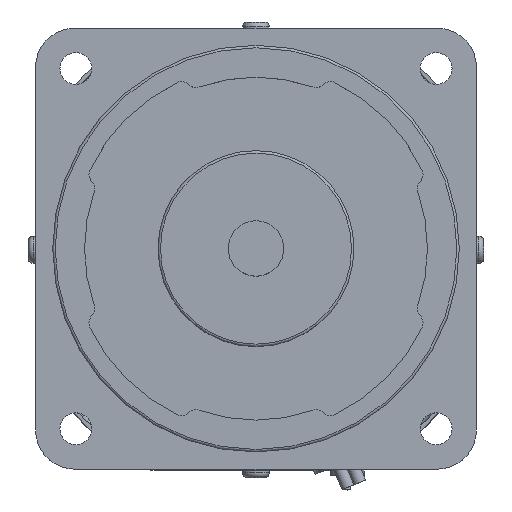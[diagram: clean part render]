
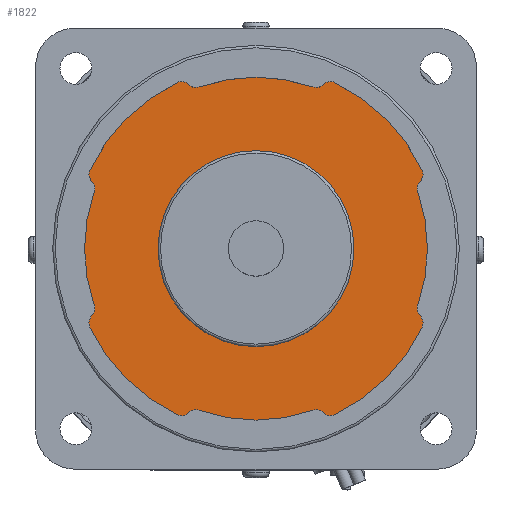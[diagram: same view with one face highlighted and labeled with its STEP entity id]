
A CAD part, top view. The second image highlights one B-rep face of the part: STEP entity #1822.
In plain terms, the highlighted planar face has unit normal (0, 0, 1).
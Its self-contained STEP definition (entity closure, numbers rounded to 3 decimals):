
#1581=CARTESIAN_POINT('',(20.0,0.,191.0));
#1582=VERTEX_POINT('',#1581);
#1583=CARTESIAN_POINT('',(0.,0.,191.0));
#1584=DIRECTION('',(0.0,0.0,-1.0));
#1585=DIRECTION('',(-1.0,0.0,0.0));
#1586=AXIS2_PLACEMENT_3D('',#1583,#1584,#1585);
#1587=CIRCLE('',#1586,20.0);
#1588=EDGE_CURVE('',#1582,#1582,#1587,.T.);
#1596=CARTESIAN_POINT('',(0.,0.,191.0));
#1597=DIRECTION('',(0.0,0.0,1.0));
#1598=DIRECTION('',(1.0,0.0,0.0));
#1599=AXIS2_PLACEMENT_3D('',#1596,#1597,#1598);
#1600=PLANE('',#1599);
#1601=CARTESIAN_POINT('',(-16.006,-33.913,191.0));
#1602=VERTEX_POINT('',#1601);
#1603=CARTESIAN_POINT('',(-13.722,-33.501,191.0));
#1604=VERTEX_POINT('',#1603);
#1605=CARTESIAN_POINT('',(-15.152,-32.104,191.0));
#1606=DIRECTION('',(0.0,0.0,1.0));
#1607=DIRECTION('',(0.427,0.904,0.0));
#1608=AXIS2_PLACEMENT_3D('',#1605,#1606,#1607);
#1609=CIRCLE('',#1608,2.);
#1610=EDGE_CURVE('',#1602,#1604,#1609,.T.);
#1611=ORIENTED_EDGE('',*,*,#1610,.T.);
#1612=CARTESIAN_POINT('',(-11.626,-33.013,191.0));
#1613=VERTEX_POINT('',#1612);
#1614=CARTESIAN_POINT('',(-12.291,-34.899,191.0));
#1615=DIRECTION('',(0.0,0.0,-1.0));
#1616=DIRECTION('',(-0.408,0.913,0.0));
#1617=AXIS2_PLACEMENT_3D('',#1614,#1615,#1616);
#1618=CIRCLE('',#1617,2.0);
#1619=EDGE_CURVE('',#1613,#1604,#1618,.F.);
#1620=ORIENTED_EDGE('',*,*,#1619,.F.);
#1621=CARTESIAN_POINT('',(11.626,-33.013,191.0));
#1622=VERTEX_POINT('',#1621);
#1623=CARTESIAN_POINT('',(0.,0.,191.));
#1624=DIRECTION('',(0.,0.,1.0));
#1625=DIRECTION('',(-0.383,-0.924,0.));
#1626=AXIS2_PLACEMENT_3D('',#1623,#1624,#1625);
#1627=CIRCLE('',#1626,35.0);
#1628=EDGE_CURVE('',#1613,#1622,#1627,.T.);
#1629=ORIENTED_EDGE('',*,*,#1628,.T.);
#1630=CARTESIAN_POINT('',(13.722,-33.501,191.0));
#1631=VERTEX_POINT('',#1630);
#1632=CARTESIAN_POINT('',(12.291,-34.899,191.0));
#1633=DIRECTION('',(0.0,0.0,-1.0));
#1634=DIRECTION('',(0.408,0.913,0.0));
#1635=AXIS2_PLACEMENT_3D('',#1632,#1633,#1634);
#1636=CIRCLE('',#1635,2.0);
#1637=EDGE_CURVE('',#1631,#1622,#1636,.F.);
#1638=ORIENTED_EDGE('',*,*,#1637,.F.);
#1639=CARTESIAN_POINT('',(16.006,-33.913,191.0));
#1640=VERTEX_POINT('',#1639);
#1641=CARTESIAN_POINT('',(15.152,-32.104,191.0));
#1642=DIRECTION('',(0.0,0.0,1.0));
#1643=DIRECTION('',(0.715,0.699,0.0));
#1644=AXIS2_PLACEMENT_3D('',#1641,#1642,#1643);
#1645=CIRCLE('',#1644,2.);
#1646=EDGE_CURVE('',#1631,#1640,#1645,.T.);
#1647=ORIENTED_EDGE('',*,*,#1646,.T.);
#1648=CARTESIAN_POINT('',(33.913,-16.006,191.0));
#1649=VERTEX_POINT('',#1648);
#1650=CARTESIAN_POINT('',(0.,0.,191.));
#1651=DIRECTION('',(0.,0.,1.0));
#1652=DIRECTION('',(0.383,-0.924,0.));
#1653=AXIS2_PLACEMENT_3D('',#1650,#1651,#1652);
#1654=CIRCLE('',#1653,37.5);
#1655=EDGE_CURVE('',#1640,#1649,#1654,.T.);
#1656=ORIENTED_EDGE('',*,*,#1655,.T.);
#1657=CARTESIAN_POINT('',(33.501,-13.722,191.0));
#1658=VERTEX_POINT('',#1657);
#1659=CARTESIAN_POINT('',(32.104,-15.152,191.0));
#1660=DIRECTION('',(0.0,0.0,1.0));
#1661=DIRECTION('',(-0.904,0.427,0.0));
#1662=AXIS2_PLACEMENT_3D('',#1659,#1660,#1661);
#1663=CIRCLE('',#1662,2.);
#1664=EDGE_CURVE('',#1649,#1658,#1663,.T.);
#1665=ORIENTED_EDGE('',*,*,#1664,.T.);
#1666=CARTESIAN_POINT('',(33.013,-11.626,191.0));
#1667=VERTEX_POINT('',#1666);
#1668=CARTESIAN_POINT('',(34.899,-12.291,191.0));
#1669=DIRECTION('',(0.0,0.0,-1.0));
#1670=DIRECTION('',(-0.913,-0.408,0.0));
#1671=AXIS2_PLACEMENT_3D('',#1668,#1669,#1670);
#1672=CIRCLE('',#1671,2.0);
#1673=EDGE_CURVE('',#1667,#1658,#1672,.F.);
#1674=ORIENTED_EDGE('',*,*,#1673,.F.);
#1675=CARTESIAN_POINT('',(33.013,11.626,191.0));
#1676=VERTEX_POINT('',#1675);
#1677=CARTESIAN_POINT('',(0.,0.,191.));
#1678=DIRECTION('',(0.,0.,1.0));
#1679=DIRECTION('',(0.924,-0.383,0.));
#1680=AXIS2_PLACEMENT_3D('',#1677,#1678,#1679);
#1681=CIRCLE('',#1680,35.);
#1682=EDGE_CURVE('',#1667,#1676,#1681,.T.);
#1683=ORIENTED_EDGE('',*,*,#1682,.T.);
#1684=CARTESIAN_POINT('',(33.501,13.722,191.0));
#1685=VERTEX_POINT('',#1684);
#1686=CARTESIAN_POINT('',(34.899,12.291,191.0));
#1687=DIRECTION('',(0.0,0.0,-1.0));
#1688=DIRECTION('',(-0.913,0.408,0.0));
#1689=AXIS2_PLACEMENT_3D('',#1686,#1687,#1688);
#1690=CIRCLE('',#1689,2.0);
#1691=EDGE_CURVE('',#1685,#1676,#1690,.F.);
#1692=ORIENTED_EDGE('',*,*,#1691,.F.);
#1693=CARTESIAN_POINT('',(33.913,16.006,191.0));
#1694=VERTEX_POINT('',#1693);
#1695=CARTESIAN_POINT('',(32.104,15.152,191.0));
#1696=DIRECTION('',(0.0,0.0,1.0));
#1697=DIRECTION('',(-0.699,0.715,0.0));
#1698=AXIS2_PLACEMENT_3D('',#1695,#1696,#1697);
#1699=CIRCLE('',#1698,2.);
#1700=EDGE_CURVE('',#1685,#1694,#1699,.T.);
#1701=ORIENTED_EDGE('',*,*,#1700,.T.);
#1702=CARTESIAN_POINT('',(16.006,33.913,191.0));
#1703=VERTEX_POINT('',#1702);
#1704=CARTESIAN_POINT('',(0.,0.,191.));
#1705=DIRECTION('',(0.,0.,1.0));
#1706=DIRECTION('',(0.924,0.383,0.));
#1707=AXIS2_PLACEMENT_3D('',#1704,#1705,#1706);
#1708=CIRCLE('',#1707,37.5);
#1709=EDGE_CURVE('',#1694,#1703,#1708,.T.);
#1710=ORIENTED_EDGE('',*,*,#1709,.T.);
#1711=CARTESIAN_POINT('',(13.722,33.501,191.0));
#1712=VERTEX_POINT('',#1711);
#1713=CARTESIAN_POINT('',(15.152,32.104,191.0));
#1714=DIRECTION('',(0.0,0.0,1.0));
#1715=DIRECTION('',(-0.427,-0.904,0.0));
#1716=AXIS2_PLACEMENT_3D('',#1713,#1714,#1715);
#1717=CIRCLE('',#1716,2.);
#1718=EDGE_CURVE('',#1703,#1712,#1717,.T.);
#1719=ORIENTED_EDGE('',*,*,#1718,.T.);
#1720=CARTESIAN_POINT('',(11.626,33.013,191.0));
#1721=VERTEX_POINT('',#1720);
#1722=CARTESIAN_POINT('',(12.291,34.899,191.0));
#1723=DIRECTION('',(0.0,0.0,-1.0));
#1724=DIRECTION('',(0.408,-0.913,0.0));
#1725=AXIS2_PLACEMENT_3D('',#1722,#1723,#1724);
#1726=CIRCLE('',#1725,2.0);
#1727=EDGE_CURVE('',#1721,#1712,#1726,.F.);
#1728=ORIENTED_EDGE('',*,*,#1727,.F.);
#1729=CARTESIAN_POINT('',(-11.626,33.013,191.0));
#1730=VERTEX_POINT('',#1729);
#1731=CARTESIAN_POINT('',(0.,0.,191.));
#1732=DIRECTION('',(0.,0.,1.0));
#1733=DIRECTION('',(0.383,0.924,0.));
#1734=AXIS2_PLACEMENT_3D('',#1731,#1732,#1733);
#1735=CIRCLE('',#1734,35.0);
#1736=EDGE_CURVE('',#1721,#1730,#1735,.T.);
#1737=ORIENTED_EDGE('',*,*,#1736,.T.);
#1738=CARTESIAN_POINT('',(-13.722,33.501,191.0));
#1739=VERTEX_POINT('',#1738);
#1740=CARTESIAN_POINT('',(-12.291,34.899,191.0));
#1741=DIRECTION('',(0.0,0.0,-1.0));
#1742=DIRECTION('',(-0.408,-0.913,0.0));
#1743=AXIS2_PLACEMENT_3D('',#1740,#1741,#1742);
#1744=CIRCLE('',#1743,2.0);
#1745=EDGE_CURVE('',#1739,#1730,#1744,.F.);
#1746=ORIENTED_EDGE('',*,*,#1745,.F.);
#1747=CARTESIAN_POINT('',(-16.006,33.913,191.0));
#1748=VERTEX_POINT('',#1747);
#1749=CARTESIAN_POINT('',(-15.152,32.104,191.0));
#1750=DIRECTION('',(0.0,0.0,1.0));
#1751=DIRECTION('',(-0.715,-0.699,0.0));
#1752=AXIS2_PLACEMENT_3D('',#1749,#1750,#1751);
#1753=CIRCLE('',#1752,2.);
#1754=EDGE_CURVE('',#1739,#1748,#1753,.T.);
#1755=ORIENTED_EDGE('',*,*,#1754,.T.);
#1756=CARTESIAN_POINT('',(-33.913,16.006,191.0));
#1757=VERTEX_POINT('',#1756);
#1758=CARTESIAN_POINT('',(0.,0.,191.));
#1759=DIRECTION('',(0.,0.,1.0));
#1760=DIRECTION('',(-0.383,0.924,0.));
#1761=AXIS2_PLACEMENT_3D('',#1758,#1759,#1760);
#1762=CIRCLE('',#1761,37.5);
#1763=EDGE_CURVE('',#1748,#1757,#1762,.T.);
#1764=ORIENTED_EDGE('',*,*,#1763,.T.);
#1765=CARTESIAN_POINT('',(-33.501,13.722,191.0));
#1766=VERTEX_POINT('',#1765);
#1767=CARTESIAN_POINT('',(-32.104,15.152,191.0));
#1768=DIRECTION('',(0.0,0.0,1.0));
#1769=DIRECTION('',(0.904,-0.427,0.0));
#1770=AXIS2_PLACEMENT_3D('',#1767,#1768,#1769);
#1771=CIRCLE('',#1770,2.);
#1772=EDGE_CURVE('',#1757,#1766,#1771,.T.);
#1773=ORIENTED_EDGE('',*,*,#1772,.T.);
#1774=CARTESIAN_POINT('',(-33.013,11.626,191.0));
#1775=VERTEX_POINT('',#1774);
#1776=CARTESIAN_POINT('',(-34.899,12.291,191.0));
#1777=DIRECTION('',(0.0,0.0,-1.0));
#1778=DIRECTION('',(0.913,0.408,0.0));
#1779=AXIS2_PLACEMENT_3D('',#1776,#1777,#1778);
#1780=CIRCLE('',#1779,2.0);
#1781=EDGE_CURVE('',#1775,#1766,#1780,.F.);
#1782=ORIENTED_EDGE('',*,*,#1781,.F.);
#1783=CARTESIAN_POINT('',(-33.013,-11.626,191.0));
#1784=VERTEX_POINT('',#1783);
#1785=CARTESIAN_POINT('',(0.,0.,191.));
#1786=DIRECTION('',(0.,0.,1.0));
#1787=DIRECTION('',(-0.924,0.383,0.));
#1788=AXIS2_PLACEMENT_3D('',#1785,#1786,#1787);
#1789=CIRCLE('',#1788,35.0);
#1790=EDGE_CURVE('',#1775,#1784,#1789,.T.);
#1791=ORIENTED_EDGE('',*,*,#1790,.T.);
#1792=CARTESIAN_POINT('',(-33.501,-13.722,191.0));
#1793=VERTEX_POINT('',#1792);
#1794=CARTESIAN_POINT('',(-34.899,-12.291,191.0));
#1795=DIRECTION('',(0.0,0.0,-1.0));
#1796=DIRECTION('',(0.913,-0.408,0.0));
#1797=AXIS2_PLACEMENT_3D('',#1794,#1795,#1796);
#1798=CIRCLE('',#1797,2.0);
#1799=EDGE_CURVE('',#1793,#1784,#1798,.F.);
#1800=ORIENTED_EDGE('',*,*,#1799,.F.);
#1801=CARTESIAN_POINT('',(-33.913,-16.006,191.0));
#1802=VERTEX_POINT('',#1801);
#1803=CARTESIAN_POINT('',(-32.104,-15.152,191.0));
#1804=DIRECTION('',(0.0,0.0,1.0));
#1805=DIRECTION('',(0.699,-0.715,0.0));
#1806=AXIS2_PLACEMENT_3D('',#1803,#1804,#1805);
#1807=CIRCLE('',#1806,2.);
#1808=EDGE_CURVE('',#1793,#1802,#1807,.T.);
#1809=ORIENTED_EDGE('',*,*,#1808,.T.);
#1810=CARTESIAN_POINT('',(0.,0.,191.));
#1811=DIRECTION('',(0.,0.,1.0));
#1812=DIRECTION('',(-0.924,-0.383,0.));
#1813=AXIS2_PLACEMENT_3D('',#1810,#1811,#1812);
#1814=CIRCLE('',#1813,37.5);
#1815=EDGE_CURVE('',#1802,#1602,#1814,.T.);
#1816=ORIENTED_EDGE('',*,*,#1815,.T.);
#1817=EDGE_LOOP('',(#1611,#1620,#1629,#1638,#1647,#1656,#1665,#1674,#1683,#1692,#1701,#1710,#1719,#1728,#1737,#1746,#1755,#1764,#1773,#1782,#1791,#1800,#1809,#1816));
#1818=FACE_OUTER_BOUND('',#1817,.T.);
#1819=ORIENTED_EDGE('',*,*,#1588,.T.);
#1820=EDGE_LOOP('',(#1819));
#1821=FACE_BOUND('',#1820,.T.);
#1822=ADVANCED_FACE('',(#1818,#1821),#1600,.T.);
